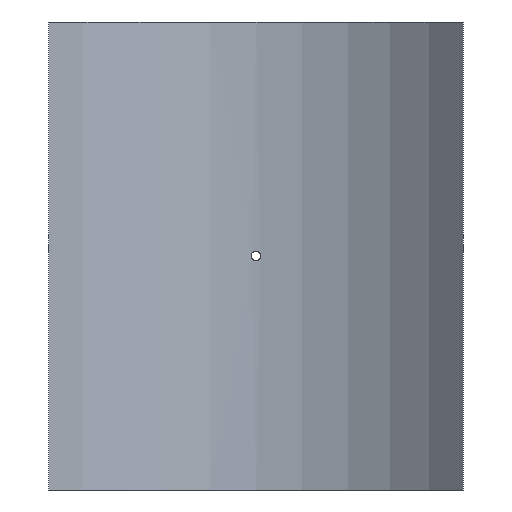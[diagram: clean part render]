
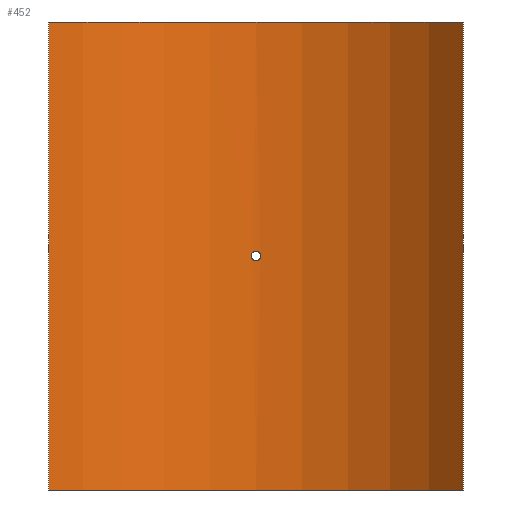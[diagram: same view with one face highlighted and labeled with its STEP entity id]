
A CAD part, front view. The second image highlights one B-rep face of the part: STEP entity #452.
In plain terms, the highlighted cylindrical face has radius 280 mm (diameter 560 mm), a partial arc.
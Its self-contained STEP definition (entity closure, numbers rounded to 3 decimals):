
#19=B_SPLINE_CURVE_WITH_KNOTS('',3,(#788,#789,#790,#791,#792,#793,#794,
#795,#796,#797,#798,#799,#800,#801,#802,#803,#804,#805,#806,#807,#808,#809,
#810,#811,#812,#813,#814,#815,#816,#817,#818,#819,#820,#821),
 .UNSPECIFIED.,.T.,.F.,(4,2,2,2,2,2,2,2,2,2,2,2,2,2,2,2,4),(0.,0.181,
0.362,0.542,0.723,0.904,
1.085,1.266,1.447,1.627,1.808,
1.989,2.17,2.351,2.531,2.712,
2.893),.UNSPECIFIED.);
#43=LINE('',#1065,#62);
#44=LINE('',#1068,#63);
#62=VECTOR('',#661,10.);
#63=VECTOR('',#664,10.);
#76=CYLINDRICAL_SURFACE('',#530,280.);
#88=FACE_BOUND('',#167,.T.);
#127=FACE_OUTER_BOUND('',#166,.T.);
#166=EDGE_LOOP('',(#405,#406,#407,#408));
#167=EDGE_LOOP('',(#409));
#201=CIRCLE('',#529,280.);
#202=CIRCLE('',#531,280.);
#219=VERTEX_POINT('',#786);
#242=VERTEX_POINT('',#1058);
#243=VERTEX_POINT('',#1060);
#244=VERTEX_POINT('',#1064);
#245=VERTEX_POINT('',#1066);
#267=EDGE_CURVE('',#219,#219,#19,.T.);
#299=EDGE_CURVE('',#242,#243,#201,.T.);
#301=EDGE_CURVE('',#244,#242,#43,.T.);
#302=EDGE_CURVE('',#245,#244,#202,.T.);
#303=EDGE_CURVE('',#245,#243,#44,.T.);
#405=ORIENTED_EDGE('',*,*,#301,.F.);
#406=ORIENTED_EDGE('',*,*,#302,.F.);
#407=ORIENTED_EDGE('',*,*,#303,.T.);
#408=ORIENTED_EDGE('',*,*,#299,.F.);
#409=ORIENTED_EDGE('',*,*,#267,.T.);
#452=ADVANCED_FACE('',(#127,#88),#76,.F.);
#529=AXIS2_PLACEMENT_3D('',#1061,#656,#657);
#530=AXIS2_PLACEMENT_3D('',#1063,#659,#660);
#531=AXIS2_PLACEMENT_3D('',#1067,#662,#663);
#656=DIRECTION('center_axis',(0.,0.,1.));
#657=DIRECTION('ref_axis',(0.743,0.669,0.));
#659=DIRECTION('center_axis',(0.,0.,1.));
#660=DIRECTION('ref_axis',(0.743,0.669,0.));
#661=DIRECTION('',(0.,0.,-1.));
#662=DIRECTION('center_axis',(0.,0.,-1.));
#663=DIRECTION('ref_axis',(0.743,0.669,0.));
#664=DIRECTION('',(0.,0.,-1.));
#786=CARTESIAN_POINT('',(4.8,279.959,0.));
#788=CARTESIAN_POINT('Ctrl Pts',(4.8,279.959,0.));
#789=CARTESIAN_POINT('Ctrl Pts',(4.8,279.959,-0.603));
#790=CARTESIAN_POINT('Ctrl Pts',(4.68,279.961,-1.246));
#791=CARTESIAN_POINT('Ctrl Pts',(4.19,279.969,-2.428));
#792=CARTESIAN_POINT('Ctrl Pts',(3.82,279.974,-2.968));
#793=CARTESIAN_POINT('Ctrl Pts',(2.968,279.985,-3.82));
#794=CARTESIAN_POINT('Ctrl Pts',(2.428,279.99,-4.19));
#795=CARTESIAN_POINT('Ctrl Pts',(1.246,279.998,-4.68));
#796=CARTESIAN_POINT('Ctrl Pts',(0.603,280.,-4.8));
#797=CARTESIAN_POINT('Ctrl Pts',(-0.603,280.,-4.8));
#798=CARTESIAN_POINT('Ctrl Pts',(-1.246,279.998,-4.68));
#799=CARTESIAN_POINT('Ctrl Pts',(-2.428,279.99,-4.19));
#800=CARTESIAN_POINT('Ctrl Pts',(-2.968,279.985,-3.82));
#801=CARTESIAN_POINT('Ctrl Pts',(-3.82,279.974,-2.968));
#802=CARTESIAN_POINT('Ctrl Pts',(-4.19,279.969,-2.428));
#803=CARTESIAN_POINT('Ctrl Pts',(-4.68,279.961,-1.246));
#804=CARTESIAN_POINT('Ctrl Pts',(-4.8,279.959,-0.603));
#805=CARTESIAN_POINT('Ctrl Pts',(-4.8,279.959,0.603));
#806=CARTESIAN_POINT('Ctrl Pts',(-4.68,279.961,1.246));
#807=CARTESIAN_POINT('Ctrl Pts',(-4.19,279.969,2.428));
#808=CARTESIAN_POINT('Ctrl Pts',(-3.82,279.974,2.968));
#809=CARTESIAN_POINT('Ctrl Pts',(-2.968,279.985,3.82));
#810=CARTESIAN_POINT('Ctrl Pts',(-2.428,279.99,4.19));
#811=CARTESIAN_POINT('Ctrl Pts',(-1.246,279.998,4.68));
#812=CARTESIAN_POINT('Ctrl Pts',(-0.603,280.,4.8));
#813=CARTESIAN_POINT('Ctrl Pts',(0.603,280.,4.8));
#814=CARTESIAN_POINT('Ctrl Pts',(1.246,279.998,4.68));
#815=CARTESIAN_POINT('Ctrl Pts',(2.428,279.99,4.19));
#816=CARTESIAN_POINT('Ctrl Pts',(2.968,279.985,3.82));
#817=CARTESIAN_POINT('Ctrl Pts',(3.82,279.974,2.968));
#818=CARTESIAN_POINT('Ctrl Pts',(4.19,279.969,2.428));
#819=CARTESIAN_POINT('Ctrl Pts',(4.68,279.961,1.246));
#820=CARTESIAN_POINT('Ctrl Pts',(4.8,279.959,0.603));
#821=CARTESIAN_POINT('Ctrl Pts',(4.8,279.959,0.));
#1058=CARTESIAN_POINT('',(208.,187.446,-235.));
#1060=CARTESIAN_POINT('',(-208.,187.446,-235.));
#1061=CARTESIAN_POINT('Origin',(0.,0.,
-235.));
#1063=CARTESIAN_POINT('Origin',(0.,0.,
0.));
#1064=CARTESIAN_POINT('',(208.,187.446,235.));
#1065=CARTESIAN_POINT('',(208.,187.446,0.));
#1066=CARTESIAN_POINT('',(-208.,187.446,235.));
#1067=CARTESIAN_POINT('Origin',(0.,0.,
235.));
#1068=CARTESIAN_POINT('',(-208.,187.446,0.));
